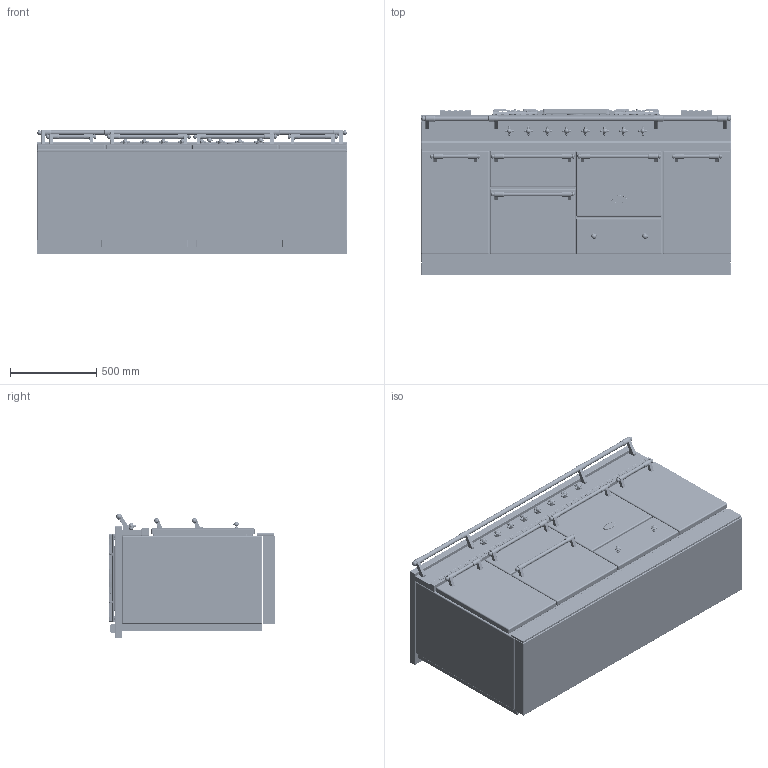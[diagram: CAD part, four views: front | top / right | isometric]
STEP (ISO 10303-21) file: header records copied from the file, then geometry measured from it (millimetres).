
FILE_DESCRIPTION((''),'2;1');
FILE_NAME('LCF1853_ASM','2021-12-02T09:44:56',('j.cheno'),(''),'CREO PARAMETRIC BY PTC INC, 2017260','CREO PARAMETRIC BY PTC INC, 2017260','');
FILE_SCHEMA(('AP203_CONFIGURATION_CONTROLLED_3D_DESIGN_OF_MECHANICAL_PARTS_AND_ASSEMBLIES_MIM_LF { 1 0 10303 403 2 1 2 }'));
Products named in the file (30): BASE_EXPORT_CHAGNY_1800; 65650003; 65650004; 65650006; 65650007; 6531940; 6531941; 6531943; 65049009; 65650001; 6538399; 1931942; 65080022_AF0; 6531942_ASM; BASE_EXPORT_CHAGNY_1800_ASM; TABLE_1805_CLASSIQUE; 3KW; 5KW; 1_5KW; 4KW; 65062008; 65062012; 65149005; 90000549_ASM; 6537023; 90000565_ASM; CHEMINEE_2020_LG182_EXPORT_STEP; CHEMINEE_2020_LG371_EXPORT_STEP; TABLE_1805_TRADITION_ASM; LCF1853_ASM
Assembly tree (56 placements, depth 4):
  LCF1853_ASM
    BASE_EXPORT_CHAGNY_1800_ASM
      BASE_EXPORT_CHAGNY_1800
      65650003
      65650004
      65650006
      65650007
      6531940  x5
      6531941  x5
      6531943  x2
      65049009
      65650001
      6531942_ASM  x8
        6538399
        1931942
        65080022_AF0
    TABLE_1805_TRADITION_ASM
      TABLE_1805_CLASSIQUE
      3KW  x2
      5KW
      1_5KW
      4KW
      90000549_ASM
        65062008
        65062012
        65149005  x4
      90000565_ASM  x2
        6537023
        65149005
      CHEMINEE_2020_LG182_EXPORT_STEP  x2
      CHEMINEE_2020_LG371_EXPORT_STEP  x2
Bounding box: 1805 x 967 x 724 mm (x, y, z)
Volume: 659954923.2 mm3; surface area: 16280842.7 mm2
Topology: 79 solids, 95 shells, 10486 faces, 27249 edges, 16956 vertices
Faces by surface type: plane 4928, cylinder 3047, bspline 1048, torus 470, sphere 356, cone 347, extrusion 266, revolution 24
Entity records: 246665 total; most frequent: CARTESIAN_POINT 64388, ORIENTED_EDGE 30626, DIRECTION 28664, EDGE_CURVE 15327, VECTOR 9925, LINE 9875, PRESENTATION_STYLE_ASSIGNMENT 9679, STYLED_ITEM 9656
